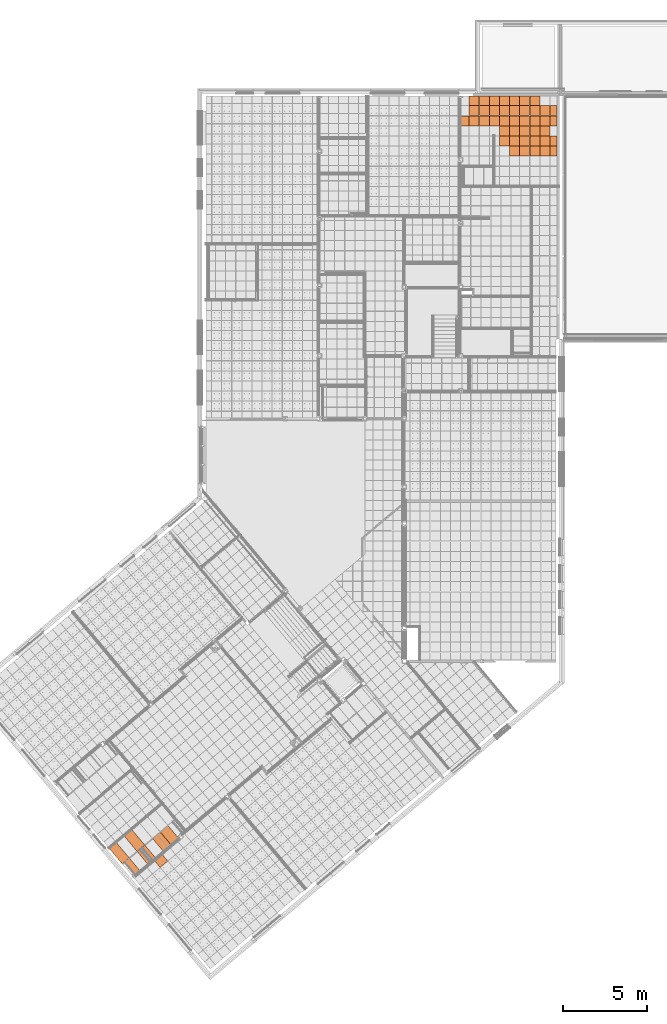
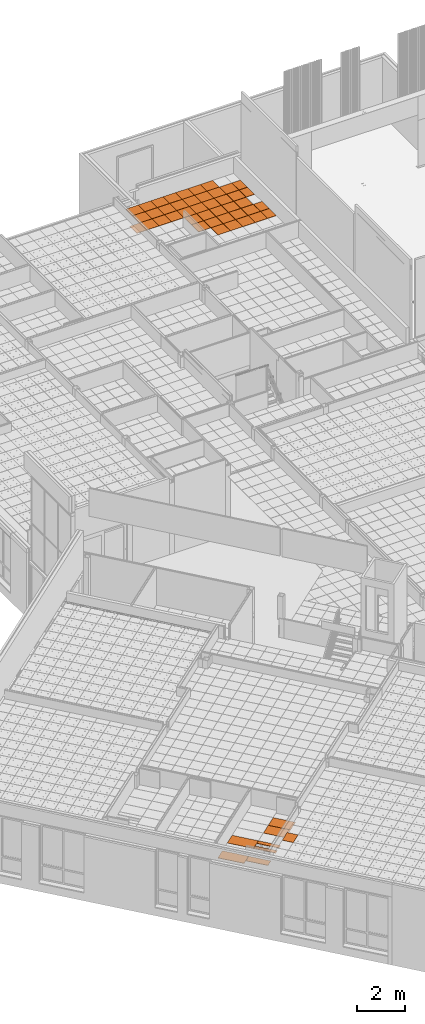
# One storey, part 311 of 338: 50 proxies, 3 elements without a shape of their own.
"""IFC2X3 building model written with IfcOpenShell, lengths in millimetres."""

from ifc_helpers import new_model, entity, si_unit, converted_unit, derived_unit, money_unit, direction, frame, origin_with_axes, place, context, subcontext, project, spatial, faceted_brep, source, transform, mapped, material, type_object, type_shapes, element, aggregate, save


model = new_model("IFC2X3")

# Units and contexts
model_context = context("Model", 3, precision=0.01, world=origin_with_axes(), true_north=direction((0.0, 1.0)))
plan_context = context("Plan", 3, precision=0.01, world=origin_with_axes(), true_north=direction((0.0, 1.0)))
body_context = subcontext(model_context, "Body", "Model", "MODEL_VIEW")
ifc_project = project(units=[si_unit("LENGTHUNIT", "METRE", prefix="MILLI"), si_unit("AREAUNIT", "SQUARE_METRE"), si_unit("VOLUMEUNIT", "CUBIC_METRE"), converted_unit("PLANEANGLEUNIT", "DEGREE", entity("IfcPlaneAngleMeasure", 0.0174532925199), si_unit("PLANEANGLEUNIT", "RADIAN"), dimensions=[0, 0, 0, 0, 0, 0, 0]), money_unit("EUR"), converted_unit("TIMEUNIT", "Year", entity("IfcTimeMeasure", 31556926.0), si_unit("TIMEUNIT", "SECOND"), dimensions=[0, 0, 1, 0, 0, 0, 0]), si_unit("MASSUNIT", "GRAM", prefix="KILO"), si_unit("THERMODYNAMICTEMPERATUREUNIT", "DEGREE_CELSIUS"), si_unit("LUMINOUSINTENSITYUNIT", "LUMEN"), si_unit("ENERGYUNIT", "JOULE", prefix="MEGA"), derived_unit("THERMALCONDUCTANCEUNIT", [(si_unit("POWERUNIT", "WATT"), 1), (si_unit("LENGTHUNIT", "METRE"), -1), (si_unit("THERMODYNAMICTEMPERATUREUNIT", "KELVIN"), -1)]), derived_unit("SPECIFICHEATCAPACITYUNIT", [(si_unit("ENERGYUNIT", "JOULE"), 1), (si_unit("MASSUNIT", "GRAM", prefix="KILO"), -1), (si_unit("THERMODYNAMICTEMPERATUREUNIT", "KELVIN"), -1)]), derived_unit("MASSDENSITYUNIT", [(si_unit("MASSUNIT", "GRAM", prefix="KILO"), 1), (si_unit("VOLUMEUNIT", "CUBIC_METRE"), -1)])], contexts=[model_context, plan_context])

# Site, building, storey
site_placement = place(None, origin_with_axes())
site = spatial("IfcSite", under=ifc_project, at=site_placement, Name="Fortuinstraat Woensdrecht", CompositionType="ELEMENT")
building_placement = place(site_placement, origin_with_axes())
building = spatial("IfcBuilding", under=site, at=building_placement, Name="IKC Fortuna", CompositionType="ELEMENT")
storey_placement = place(building_placement, origin_with_axes())
storey = spatial("IfcBuildingStorey", under=building, at=storey_placement, Name="00 begane grond", CompositionType="ELEMENT", Elevation=0.0)

# Covering, proxies
covering_type = type_object("IfcCoveringType", Name="Curtain Wall Type", PredefinedType="CEILING")
covering_1_placement = place(storey_placement, frame((34473.6590305, 30882.3889696, 2810.0), z_axis=(0.0, 0.0, 1.0), x_axis=(1.0, 0.0, 0.0)))
covering_1 = element("IfcCovering", 1, at=covering_1_placement, inside=storey, type_object=covering_type, Name="45_Plafondafwerking_P02 v", PredefinedType="CEILING")
ifc_material = material(Name="Gipsplaat")
building_element_proxy_type_1 = type_object("IfcBuildingElementProxyType", Name="Distinct Panel 600 x 600 x 20", PredefinedType="NOTDEFINED")
shared_shape_1 = source(origin_with_axes(), body_context, "Body", "Brep", [
    faceted_brep([(-2.49999999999, 2.5, -10.0), (-2.49999999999, 2.5, 10.0), (-597.5, 2.49999999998, 10.0), (-597.5, 2.49999999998, -10.0), (-2.50000000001, 597.5, -10.0), (-2.50000000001, 597.5, 10.0), (-597.5, 597.5, 10.0), (-597.5, 597.5, -10.0)], [[[0, 1, 2, 3]], [[4, 5, 1, 0]], [[1, 5, 6, 2]], [[3, 2, 6, 7]], [[0, 3, 7, 4]], [[7, 6, 5, 4]]]),
])
proxy_1_placement = place(covering_1_placement, frame((-509.768002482, 3600.0, 1.63868918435e-10), z_axis=(0.0, 0.0, 1.0), x_axis=(1.0, 0.0, 0.0)))
proxy_1 = element("IfcBuildingElementProxy", 2, at=proxy_1_placement, type_object=building_element_proxy_type_1, material=ifc_material, Name="__Panel-D", context=body_context, shape_type="MappedRepresentation", body=[
    mapped(shared_shape_1, transform((-300.0, 300.0, 0.0), x_axis=(-1.0, 0.0, 0.0), y_axis=(0.0, -1.0, 0.0), z_axis=(0.0, 0.0, 1.0))),
])
proxy_2_placement = place(covering_1_placement, frame((-3509.76800248, 3000.0, 0.0), z_axis=(0.0, 0.0, 1.0), x_axis=(1.0, 0.0, 0.0)))
proxy_2 = element("IfcBuildingElementProxy", 3, at=proxy_2_placement, type_object=building_element_proxy_type_1, material=ifc_material, Name="__Panel-D", context=body_context, shape_type="MappedRepresentation", body=[
    mapped(shared_shape_1, transform((-300.0, 300.0, 0.0), x_axis=(-1.0, 0.0, 0.0), y_axis=(0.0, -1.0, 0.0), z_axis=(0.0, 0.0, 1.0))),
])
proxy_3_placement = place(covering_1_placement, frame((-1109.76800248, 3000.0, 1.43884903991e-10), z_axis=(0.0, 0.0, 1.0), x_axis=(1.0, 0.0, 0.0)))
proxy_3 = element("IfcBuildingElementProxy", 4, at=proxy_3_placement, type_object=building_element_proxy_type_1, material=ifc_material, Name="__Panel-D", context=body_context, shape_type="MappedRepresentation", body=[
    mapped(shared_shape_1, transform((-300.0, 300.0, 0.0), x_axis=(-1.0, 0.0, 0.0), y_axis=(0.0, -1.0, 0.0), z_axis=(0.0, 0.0, 1.0))),
])
proxy_4_placement = place(covering_1_placement, frame((-509.768002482, 3000.0, 1.63868918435e-10), z_axis=(0.0, 0.0, 1.0), x_axis=(1.0, 0.0, 0.0)))
proxy_4 = element("IfcBuildingElementProxy", 5, at=proxy_4_placement, type_object=building_element_proxy_type_1, material=ifc_material, Name="__Panel-D", context=body_context, shape_type="MappedRepresentation", body=[
    mapped(shared_shape_1, transform((-300.0, 300.0, 0.0), x_axis=(-1.0, 0.0, 0.0), y_axis=(0.0, -1.0, 0.0), z_axis=(0.0, 0.0, 1.0))),
])
proxy_5_placement = place(covering_1_placement, frame((-1709.76800248, 3600.0, 1.24344978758e-10), z_axis=(0.0, 0.0, 1.0), x_axis=(1.0, 0.0, 0.0)))
proxy_5 = element("IfcBuildingElementProxy", 6, at=proxy_5_placement, type_object=building_element_proxy_type_1, material=ifc_material, Name="__Panel-D", context=body_context, shape_type="MappedRepresentation", body=[
    mapped(shared_shape_1, transform((-300.0, 300.0, 0.0), x_axis=(-1.0, 0.0, 0.0), y_axis=(0.0, -1.0, 0.0), z_axis=(0.0, 0.0, 1.0))),
])
proxy_6_placement = place(covering_1_placement, frame((-4709.76800248, 3600.0, 0.0), z_axis=(0.0, 0.0, 1.0), x_axis=(1.0, 0.0, 0.0)))
proxy_6 = element("IfcBuildingElementProxy", 7, at=proxy_6_placement, type_object=building_element_proxy_type_1, material=ifc_material, Name="__Panel-D", context=body_context, shape_type="MappedRepresentation", body=[
    mapped(shared_shape_1, transform((-300.0, 300.0, 0.0), x_axis=(-1.0, 0.0, 0.0), y_axis=(0.0, -1.0, 0.0), z_axis=(0.0, 0.0, 1.0))),
])
proxy_7_placement = place(covering_1_placement, frame((-4109.76800248, 3600.0, 0.0), z_axis=(0.0, 0.0, 1.0), x_axis=(1.0, 0.0, 0.0)))
proxy_7 = element("IfcBuildingElementProxy", 8, at=proxy_7_placement, type_object=building_element_proxy_type_1, material=ifc_material, Name="__Panel-D", context=body_context, shape_type="MappedRepresentation", body=[
    mapped(shared_shape_1, transform((-300.0, 300.0, 0.0), x_axis=(-1.0, 0.0, 0.0), y_axis=(0.0, -1.0, 0.0), z_axis=(0.0, 0.0, 1.0))),
])
proxy_8_placement = place(covering_1_placement, frame((-1109.76800248, 3600.0, 1.43884903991e-10), z_axis=(0.0, 0.0, 1.0), x_axis=(1.0, 0.0, 0.0)))
proxy_8 = element("IfcBuildingElementProxy", 9, at=proxy_8_placement, type_object=building_element_proxy_type_1, material=ifc_material, Name="__Panel-D", context=body_context, shape_type="MappedRepresentation", body=[
    mapped(shared_shape_1, transform((-300.0, 300.0, 0.0), x_axis=(-1.0, 0.0, 0.0), y_axis=(0.0, -1.0, 0.0), z_axis=(0.0, 0.0, 1.0))),
])
proxy_9_placement = place(covering_1_placement, frame((-3509.76800248, 3600.0, 0.0), z_axis=(0.0, 0.0, 1.0), x_axis=(1.0, 0.0, 0.0)))
proxy_9 = element("IfcBuildingElementProxy", 10, at=proxy_9_placement, type_object=building_element_proxy_type_1, material=ifc_material, Name="__Panel-D", context=body_context, shape_type="MappedRepresentation", body=[
    mapped(shared_shape_1, transform((-300.0, 300.0, 0.0), x_axis=(-1.0, 0.0, 0.0), y_axis=(0.0, -1.0, 0.0), z_axis=(0.0, 0.0, 1.0))),
])
proxy_10_placement = place(covering_1_placement, frame((-2909.76800248, 3600.0, 0.0), z_axis=(0.0, 0.0, 1.0), x_axis=(1.0, 0.0, 0.0)))
proxy_10 = element("IfcBuildingElementProxy", 11, at=proxy_10_placement, type_object=building_element_proxy_type_1, material=ifc_material, Name="__Panel-D", context=body_context, shape_type="MappedRepresentation", body=[
    mapped(shared_shape_1, transform((-300.0, 300.0, 0.0), x_axis=(-1.0, 0.0, 0.0), y_axis=(0.0, -1.0, 0.0), z_axis=(0.0, 0.0, 1.0))),
])
proxy_11_placement = place(covering_1_placement, frame((-2309.76800248, 3600.0, 1.04360964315e-10), z_axis=(0.0, 0.0, 1.0), x_axis=(1.0, 0.0, 0.0)))
proxy_11 = element("IfcBuildingElementProxy", 12, at=proxy_11_placement, type_object=building_element_proxy_type_1, material=ifc_material, Name="__Panel-D", context=body_context, shape_type="MappedRepresentation", body=[
    mapped(shared_shape_1, transform((-300.0, 300.0, 0.0), x_axis=(-1.0, 0.0, 0.0), y_axis=(0.0, -1.0, 0.0), z_axis=(0.0, 0.0, 1.0))),
])
proxy_12_placement = place(covering_1_placement, frame((-1109.76800248, 1200.0, 1.43884903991e-10), z_axis=(0.0, 0.0, 1.0), x_axis=(1.0, 0.0, 0.0)))
proxy_12 = element("IfcBuildingElementProxy", 13, at=proxy_12_placement, type_object=building_element_proxy_type_1, material=ifc_material, Name="__Panel-D", context=body_context, shape_type="MappedRepresentation", body=[
    mapped(shared_shape_1, transform((-300.0, 300.0, 0.0), x_axis=(-1.0, 0.0, 0.0), y_axis=(0.0, -1.0, 0.0), z_axis=(0.0, 0.0, 1.0))),
])
proxy_13_placement = place(covering_1_placement, frame((-509.768002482, 2400.0, 1.63868918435e-10), z_axis=(0.0, 0.0, 1.0), x_axis=(1.0, 0.0, 0.0)))
proxy_13 = element("IfcBuildingElementProxy", 14, at=proxy_13_placement, type_object=building_element_proxy_type_1, material=ifc_material, Name="__Panel-D", context=body_context, shape_type="MappedRepresentation", body=[
    mapped(shared_shape_1, transform((-300.0, 300.0, 0.0), x_axis=(-1.0, 0.0, 0.0), y_axis=(0.0, -1.0, 0.0), z_axis=(0.0, 0.0, 1.0))),
])
proxy_14_placement = place(covering_1_placement, frame((-509.768002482, 1200.0, 1.63868918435e-10), z_axis=(0.0, 0.0, 1.0), x_axis=(1.0, 0.0, 0.0)))
proxy_14 = element("IfcBuildingElementProxy", 15, at=proxy_14_placement, type_object=building_element_proxy_type_1, material=ifc_material, Name="__Panel-D", context=body_context, shape_type="MappedRepresentation", body=[
    mapped(shared_shape_1, transform((-300.0, 300.0, 0.0), x_axis=(-1.0, 0.0, 0.0), y_axis=(0.0, -1.0, 0.0), z_axis=(0.0, 0.0, 1.0))),
])
proxy_15_placement = place(covering_1_placement, frame((-1109.76800248, 1800.0, 1.43884903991e-10), z_axis=(0.0, 0.0, 1.0), x_axis=(1.0, 0.0, 0.0)))
proxy_15 = element("IfcBuildingElementProxy", 16, at=proxy_15_placement, type_object=building_element_proxy_type_1, material=ifc_material, Name="__Panel-D", context=body_context, shape_type="MappedRepresentation", body=[
    mapped(shared_shape_1, transform((-300.0, 300.0, 0.0), x_axis=(-1.0, 0.0, 0.0), y_axis=(0.0, -1.0, 0.0), z_axis=(0.0, 0.0, 1.0))),
])
proxy_16_placement = place(covering_1_placement, frame((-509.768002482, 1800.0, 1.63868918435e-10), z_axis=(0.0, 0.0, 1.0), x_axis=(1.0, 0.0, 0.0)))
proxy_16 = element("IfcBuildingElementProxy", 17, at=proxy_16_placement, type_object=building_element_proxy_type_1, material=ifc_material, Name="__Panel-D", context=body_context, shape_type="MappedRepresentation", body=[
    mapped(shared_shape_1, transform((-300.0, 300.0, 0.0), x_axis=(-1.0, 0.0, 0.0), y_axis=(0.0, -1.0, 0.0), z_axis=(0.0, 0.0, 1.0))),
])
proxy_17_placement = place(covering_1_placement, frame((-1109.76800248, 2400.0, 1.43884903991e-10), z_axis=(0.0, 0.0, 1.0), x_axis=(1.0, 0.0, 0.0)))
proxy_17 = element("IfcBuildingElementProxy", 18, at=proxy_17_placement, type_object=building_element_proxy_type_1, material=ifc_material, Name="__Panel-D", context=body_context, shape_type="MappedRepresentation", body=[
    mapped(shared_shape_1, transform((-300.0, 300.0, 0.0), x_axis=(-1.0, 0.0, 0.0), y_axis=(0.0, -1.0, 0.0), z_axis=(0.0, 0.0, 1.0))),
])
proxy_18_placement = place(covering_1_placement, frame((-1709.76800248, 1200.0, 1.24344978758e-10), z_axis=(0.0, 0.0, 1.0), x_axis=(1.0, 0.0, 0.0)))
proxy_18 = element("IfcBuildingElementProxy", 19, at=proxy_18_placement, type_object=building_element_proxy_type_1, material=ifc_material, Name="__Panel-D", context=body_context, shape_type="MappedRepresentation", body=[
    mapped(shared_shape_1, transform((-300.0, 300.0, 0.0), x_axis=(-1.0, 0.0, 0.0), y_axis=(0.0, -1.0, 0.0), z_axis=(0.0, 0.0, 1.0))),
])
proxy_19_placement = place(covering_1_placement, frame((-2309.76800248, 3000.0, 1.04360964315e-10), z_axis=(0.0, 0.0, 1.0), x_axis=(1.0, 0.0, 0.0)))
proxy_19 = element("IfcBuildingElementProxy", 20, at=proxy_19_placement, type_object=building_element_proxy_type_1, material=ifc_material, Name="__Panel-D", context=body_context, shape_type="MappedRepresentation", body=[
    mapped(shared_shape_1, transform((-300.0, 300.0, 0.0), x_axis=(-1.0, 0.0, 0.0), y_axis=(0.0, -1.0, 0.0), z_axis=(0.0, 0.0, 1.0))),
])
proxy_20_placement = place(covering_1_placement, frame((-2909.76800248, 2400.0, 0.0), z_axis=(0.0, 0.0, 1.0), x_axis=(1.0, 0.0, 0.0)))
proxy_20 = element("IfcBuildingElementProxy", 21, at=proxy_20_placement, type_object=building_element_proxy_type_1, material=ifc_material, Name="__Panel-D", context=body_context, shape_type="MappedRepresentation", body=[
    mapped(shared_shape_1, transform((-300.0, 300.0, 0.0), x_axis=(-1.0, 0.0, 0.0), y_axis=(0.0, -1.0, 0.0), z_axis=(0.0, 0.0, 1.0))),
])
proxy_21_placement = place(covering_1_placement, frame((-2909.76800248, 1800.0, 0.0), z_axis=(0.0, 0.0, 1.0), x_axis=(1.0, 0.0, 0.0)))
proxy_21 = element("IfcBuildingElementProxy", 22, at=proxy_21_placement, type_object=building_element_proxy_type_1, material=ifc_material, Name="__Panel-D", context=body_context, shape_type="MappedRepresentation", body=[
    mapped(shared_shape_1, transform((-300.0, 300.0, 0.0), x_axis=(-1.0, 0.0, 0.0), y_axis=(0.0, -1.0, 0.0), z_axis=(0.0, 0.0, 1.0))),
])
proxy_22_placement = place(covering_1_placement, frame((-2309.76800248, 2400.0, 1.04360964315e-10), z_axis=(0.0, 0.0, 1.0), x_axis=(1.0, 0.0, 0.0)))
proxy_22 = element("IfcBuildingElementProxy", 23, at=proxy_22_placement, type_object=building_element_proxy_type_1, material=ifc_material, Name="__Panel-D", context=body_context, shape_type="MappedRepresentation", body=[
    mapped(shared_shape_1, transform((-300.0, 300.0, 0.0), x_axis=(-1.0, 0.0, 0.0), y_axis=(0.0, -1.0, 0.0), z_axis=(0.0, 0.0, 1.0))),
])
proxy_23_placement = place(covering_1_placement, frame((-2309.76800248, 1800.0, 1.04360964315e-10), z_axis=(0.0, 0.0, 1.0), x_axis=(1.0, 0.0, 0.0)))
proxy_23 = element("IfcBuildingElementProxy", 24, at=proxy_23_placement, type_object=building_element_proxy_type_1, material=ifc_material, Name="__Panel-D", context=body_context, shape_type="MappedRepresentation", body=[
    mapped(shared_shape_1, transform((-300.0, 300.0, 0.0), x_axis=(-1.0, 0.0, 0.0), y_axis=(0.0, -1.0, 0.0), z_axis=(0.0, 0.0, 1.0))),
])
proxy_24_placement = place(covering_1_placement, frame((-2309.76800248, 1200.0, 1.04360964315e-10), z_axis=(0.0, 0.0, 1.0), x_axis=(1.0, 0.0, 0.0)))
proxy_24 = element("IfcBuildingElementProxy", 25, at=proxy_24_placement, type_object=building_element_proxy_type_1, material=ifc_material, Name="__Panel-D", context=body_context, shape_type="MappedRepresentation", body=[
    mapped(shared_shape_1, transform((-300.0, 300.0, 0.0), x_axis=(-1.0, 0.0, 0.0), y_axis=(0.0, -1.0, 0.0), z_axis=(0.0, 0.0, 1.0))),
])
proxy_25_placement = place(covering_1_placement, frame((-1709.76800248, 2400.0, 1.24344978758e-10), z_axis=(0.0, 0.0, 1.0), x_axis=(1.0, 0.0, 0.0)))
proxy_25 = element("IfcBuildingElementProxy", 26, at=proxy_25_placement, type_object=building_element_proxy_type_1, material=ifc_material, Name="__Panel-D", context=body_context, shape_type="MappedRepresentation", body=[
    mapped(shared_shape_1, transform((-300.0, 300.0, 0.0), x_axis=(-1.0, 0.0, 0.0), y_axis=(0.0, -1.0, 0.0), z_axis=(0.0, 0.0, 1.0))),
])
proxy_26_placement = place(covering_1_placement, frame((-1709.76800248, 1800.0, 1.24344978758e-10), z_axis=(0.0, 0.0, 1.0), x_axis=(1.0, 0.0, 0.0)))
proxy_26 = element("IfcBuildingElementProxy", 27, at=proxy_26_placement, type_object=building_element_proxy_type_1, material=ifc_material, Name="__Panel-D", context=body_context, shape_type="MappedRepresentation", body=[
    mapped(shared_shape_1, transform((-300.0, 300.0, 0.0), x_axis=(-1.0, 0.0, 0.0), y_axis=(0.0, -1.0, 0.0), z_axis=(0.0, 0.0, 1.0))),
])
shared_shape_2 = source(origin_with_axes(), body_context, "Body", "Brep", [
    faceted_brep([(-2.5000069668, 2.4999963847, -10.0), (-2.5000069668, 2.4999963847, 10.0), (-597.499995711, 2.50000275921, 10.0), (-597.499995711, 2.50000275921, -10.0), (-2.50000214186, 597.499967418, -10.0), (-2.50000214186, 597.499967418, 10.0), (-597.499990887, 597.499973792, 10.0), (-597.499990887, 597.499973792, -10.0)], [[[0, 1, 2, 3]], [[4, 5, 1, 0]], [[1, 5, 6, 2]], [[3, 2, 6, 7]], [[0, 3, 7, 4]], [[7, 6, 5, 4]]]),
])
type_shapes(building_element_proxy_type_1, [shared_shape_1, shared_shape_2])
proxy_27_placement = place(covering_1_placement, frame((-1709.76800248, 3000.0, 1.24344978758e-10), z_axis=(0.0, 0.0, 1.0), x_axis=(1.0, 0.0, 0.0)))
proxy_27 = element("IfcBuildingElementProxy", 28, at=proxy_27_placement, type_object=building_element_proxy_type_1, material=ifc_material, Name="__Panel-D", context=body_context, shape_type="MappedRepresentation", body=[
    mapped(shared_shape_2, transform((-300.0, 300.0, 0.0), x_axis=(-1.0, 0.0, 0.0), y_axis=(0.0, -1.0, 0.0), z_axis=(0.0, 0.0, 1.0))),
])
proxy_28_placement = place(covering_1_placement, frame((-4109.76800248, 3000.0, 0.0), z_axis=(0.0, 0.0, 1.0), x_axis=(1.0, 0.0, 0.0)))
proxy_28 = element("IfcBuildingElementProxy", 29, at=proxy_28_placement, type_object=building_element_proxy_type_1, material=ifc_material, Name="__Panel-D", context=body_context, shape_type="MappedRepresentation", body=[
    mapped(shared_shape_2, transform((-300.0, 300.0, 0.0), x_axis=(-1.0, 0.0, 0.0), y_axis=(0.0, -1.0, 0.0), z_axis=(0.0, 0.0, 1.0))),
])
proxy_29_placement = place(covering_1_placement, frame((-4709.76800248, 3000.0, 0.0), z_axis=(0.0, 0.0, 1.0), x_axis=(1.0, 0.0, 0.0)))
proxy_29 = element("IfcBuildingElementProxy", 30, at=proxy_29_placement, type_object=building_element_proxy_type_1, material=ifc_material, Name="__Panel-D", context=body_context, shape_type="MappedRepresentation", body=[
    mapped(shared_shape_2, transform((-300.0, 300.0, 0.0), x_axis=(-1.0, 0.0, 0.0), y_axis=(0.0, -1.0, 0.0), z_axis=(0.0, 0.0, 1.0))),
])
proxy_30_placement = place(covering_1_placement, frame((-2909.76800248, 3000.0, 0.0), z_axis=(0.0, 0.0, 1.0), x_axis=(1.0, 0.0, 0.0)))
proxy_30 = element("IfcBuildingElementProxy", 31, at=proxy_30_placement, type_object=building_element_proxy_type_1, material=ifc_material, Name="__Panel-D", context=body_context, shape_type="MappedRepresentation", body=[
    mapped(shared_shape_2, transform((-300.0, 300.0, 0.0), x_axis=(-1.0, 0.0, 0.0), y_axis=(0.0, -1.0, 0.0), z_axis=(0.0, 0.0, 1.0))),
])
building_element_proxy_type_2 = type_object("IfcBuildingElementProxyType", Name="Distinct Panel 420 x 600 x 20", PredefinedType="NOTDEFINED")
shared_shape_3 = source(origin_with_axes(), body_context, "Body", "Brep", [
    faceted_brep([(-2.50000074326, 2.5, -10.0), (-2.50000074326, 2.5, 10.0), (-417.036004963, 2.49999999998, 10.0), (-417.036004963, 2.49999999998, -10.0), (-2.50000074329, 597.5, -10.0), (-2.50000074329, 597.5, 10.0), (-417.036004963, 597.5, 10.0), (-417.036004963, 597.5, -10.0)], [[[0, 1, 2, 3]], [[4, 5, 1, 0]], [[1, 5, 6, 2]], [[3, 2, 6, 7]], [[0, 3, 7, 4]], [[7, 6, 5, 4]]]),
])
type_shapes(building_element_proxy_type_2, [shared_shape_3])
proxy_31_placement = place(covering_1_placement, frame((0.0, 1200.0, 1.80744308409e-10), z_axis=(0.0, 0.0, 1.0), x_axis=(1.0, 0.0, 0.0)))
proxy_31 = element("IfcBuildingElementProxy", 32, at=proxy_31_placement, type_object=building_element_proxy_type_2, material=ifc_material, Name="__Panel-D", context=body_context, shape_type="MappedRepresentation", body=[
    mapped(shared_shape_3, transform((-209.768002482, 300.0, 0.0), x_axis=(-1.0, 0.0, 0.0), y_axis=(0.0, -1.0, 0.0), z_axis=(0.0, 0.0, 1.0))),
])
proxy_32_placement = place(covering_1_placement, frame((0.0, 3000.0, 1.80744308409e-10), z_axis=(0.0, 0.0, 1.0), x_axis=(1.0, 0.0, 0.0)))
proxy_32 = element("IfcBuildingElementProxy", 33, at=proxy_32_placement, type_object=building_element_proxy_type_2, material=ifc_material, Name="__Panel-D", context=body_context, shape_type="MappedRepresentation", body=[
    mapped(shared_shape_3, transform((-209.768002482, 300.0, 0.0), x_axis=(-1.0, 0.0, 0.0), y_axis=(0.0, -1.0, 0.0), z_axis=(0.0, 0.0, 1.0))),
])
proxy_33_placement = place(covering_1_placement, frame((0.0, 3600.0, 1.80744308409e-10), z_axis=(0.0, 0.0, 1.0), x_axis=(1.0, 0.0, 0.0)))
proxy_33 = element("IfcBuildingElementProxy", 34, at=proxy_33_placement, type_object=building_element_proxy_type_2, material=ifc_material, Name="__Panel-D", context=body_context, shape_type="MappedRepresentation", body=[
    mapped(shared_shape_3, transform((-209.768002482, 300.0, 0.0), x_axis=(-1.0, 0.0, 0.0), y_axis=(0.0, -1.0, 0.0), z_axis=(0.0, 0.0, 1.0))),
])
proxy_34_placement = place(covering_1_placement, frame((0.0, 1800.0, 1.80744308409e-10), z_axis=(0.0, 0.0, 1.0), x_axis=(1.0, 0.0, 0.0)))
proxy_34 = element("IfcBuildingElementProxy", 35, at=proxy_34_placement, type_object=building_element_proxy_type_2, material=ifc_material, Name="__Panel-D", context=body_context, shape_type="MappedRepresentation", body=[
    mapped(shared_shape_3, transform((-209.768002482, 300.0, 0.0), x_axis=(-1.0, 0.0, 0.0), y_axis=(0.0, -1.0, 0.0), z_axis=(0.0, 0.0, 1.0))),
])
building_element_proxy_type_3 = type_object("IfcBuildingElementProxyType", Name="Distinct Panel 487 x 600 x 20", PredefinedType="NOTDEFINED")
shared_shape_4 = source(origin_with_axes(), body_context, "Body", "Brep", [
    faceted_brep([(-115.543925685, 2.5, -10.0), (-115.543925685, 2.5, 10.0), (-597.5, 2.49999999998, 10.0), (-597.5, 2.49999999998, -10.0), (-115.543925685, 597.5, -10.0), (-115.543925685, 597.5, 10.0), (-597.5, 597.5, 10.0), (-597.5, 597.5, -10.0)], [[[0, 1, 2, 3]], [[4, 5, 1, 0]], [[1, 5, 6, 2]], [[3, 2, 6, 7]], [[0, 3, 7, 4]], [[7, 6, 5, 4]]]),
])
type_shapes(building_element_proxy_type_3, [shared_shape_4])
proxy_35_placement = place(covering_1_placement, frame((-5253.24603815, 3000.0, 0.0), z_axis=(0.0, 0.0, 1.0), x_axis=(1.0, 0.0, 0.0)))
proxy_35 = element("IfcBuildingElementProxy", 36, at=proxy_35_placement, type_object=building_element_proxy_type_3, material=ifc_material, Name="__Panel-D", context=body_context, shape_type="MappedRepresentation", body=[
    mapped(shared_shape_4, transform((-356.521964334, 300.0, 0.0), x_axis=(-1.0, 0.0, 0.0), y_axis=(0.0, -1.0, 0.0), z_axis=(0.0, 0.0, 1.0))),
])
building_element_proxy_type_4 = type_object("IfcBuildingElementProxyType", Name="Distinct Panel 600 x 564 x 20", PredefinedType="NOTDEFINED")
shared_shape_5 = source(origin_with_axes(), body_context, "Body", "Brep", [
    faceted_brep([(-2.49999999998, 38.5923574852, -10.0), (-2.49999999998, 38.5923574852, 10.0), (-597.5, 38.5923574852, 10.0), (-597.5, 38.5923574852, -10.0), (-2.5, 597.5, -10.0), (-2.5, 597.5, 10.0), (-597.5, 597.5, 10.0), (-597.5, 597.5, -10.0)], [[[0, 1, 2, 3]], [[4, 5, 1, 0]], [[1, 5, 6, 2]], [[3, 2, 6, 7]], [[0, 3, 7, 4]], [[7, 6, 5, 4]]]),
])
type_shapes(building_element_proxy_type_4, [shared_shape_5])
proxy_36_placement = place(covering_1_placement, frame((-1709.76800248, 4181.95382087, 1.24344978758e-10), z_axis=(0.0, 0.0, 1.0), x_axis=(1.0, 0.0, 0.0)))
proxy_36 = element("IfcBuildingElementProxy", 37, at=proxy_36_placement, type_object=building_element_proxy_type_4, material=ifc_material, Name="__Panel-D", context=body_context, shape_type="MappedRepresentation", body=[
    mapped(shared_shape_5, transform((-300.0, 318.04617913, 0.0), x_axis=(-1.0, 0.0, 0.0), y_axis=(0.0, -1.0, 0.0), z_axis=(0.0, 0.0, 1.0))),
])
proxy_37_placement = place(covering_1_placement, frame((-4109.76800248, 4181.95382087, 0.0), z_axis=(0.0, 0.0, 1.0), x_axis=(1.0, 0.0, 0.0)))
proxy_37 = element("IfcBuildingElementProxy", 38, at=proxy_37_placement, type_object=building_element_proxy_type_4, material=ifc_material, Name="__Panel-D", context=body_context, shape_type="MappedRepresentation", body=[
    mapped(shared_shape_5, transform((-300.0, 318.04617913, 0.0), x_axis=(-1.0, 0.0, 0.0), y_axis=(0.0, -1.0, 0.0), z_axis=(0.0, 0.0, 1.0))),
])
proxy_38_placement = place(covering_1_placement, frame((-2909.76800248, 4181.95382087, 0.0), z_axis=(0.0, 0.0, 1.0), x_axis=(1.0, 0.0, 0.0)))
proxy_38 = element("IfcBuildingElementProxy", 39, at=proxy_38_placement, type_object=building_element_proxy_type_4, material=ifc_material, Name="__Panel-D", context=body_context, shape_type="MappedRepresentation", body=[
    mapped(shared_shape_5, transform((-300.0, 318.04617913, 0.0), x_axis=(-1.0, 0.0, 0.0), y_axis=(0.0, -1.0, 0.0), z_axis=(0.0, 0.0, 1.0))),
])
proxy_39_placement = place(covering_1_placement, frame((-3509.76800248, 4181.95382087, 0.0), z_axis=(0.0, 0.0, 1.0), x_axis=(1.0, 0.0, 0.0)))
proxy_39 = element("IfcBuildingElementProxy", 40, at=proxy_39_placement, type_object=building_element_proxy_type_4, material=ifc_material, Name="__Panel-D", context=body_context, shape_type="MappedRepresentation", body=[
    mapped(shared_shape_5, transform((-300.0, 318.04617913, 0.0), x_axis=(-1.0, 0.0, 0.0), y_axis=(0.0, -1.0, 0.0), z_axis=(0.0, 0.0, 1.0))),
])
proxy_40_placement = place(covering_1_placement, frame((-1109.76800248, 4181.95382087, 1.43884903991e-10), z_axis=(0.0, 0.0, 1.0), x_axis=(1.0, 0.0, 0.0)))
proxy_40 = element("IfcBuildingElementProxy", 41, at=proxy_40_placement, type_object=building_element_proxy_type_4, material=ifc_material, Name="__Panel-D", context=body_context, shape_type="MappedRepresentation", body=[
    mapped(shared_shape_5, transform((-300.0, 318.04617913, 0.0), x_axis=(-1.0, 0.0, 0.0), y_axis=(0.0, -1.0, 0.0), z_axis=(0.0, 0.0, 1.0))),
])
proxy_41_placement = place(covering_1_placement, frame((-2309.76800248, 4181.95382087, 1.04360964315e-10), z_axis=(0.0, 0.0, 1.0), x_axis=(1.0, 0.0, 0.0)))
proxy_41 = element("IfcBuildingElementProxy", 42, at=proxy_41_placement, type_object=building_element_proxy_type_4, material=ifc_material, Name="__Panel-D", context=body_context, shape_type="MappedRepresentation", body=[
    mapped(shared_shape_5, transform((-300.0, 318.04617913, 0.0), x_axis=(-1.0, 0.0, 0.0), y_axis=(0.0, -1.0, 0.0), z_axis=(0.0, 0.0, 1.0))),
])
proxy_42_placement = place(covering_1_placement, frame((-4709.76800248, 4181.95382087, 0.0), z_axis=(0.0, 0.0, 1.0), x_axis=(1.0, 0.0, 0.0)))
proxy_42 = element("IfcBuildingElementProxy", 43, at=proxy_42_placement, type_object=building_element_proxy_type_4, material=ifc_material, Name="__Panel-D", context=body_context, shape_type="MappedRepresentation", body=[
    mapped(shared_shape_5, transform((-300.0, 318.04617913, 0.0), x_axis=(-1.0, 0.0, 0.0), y_axis=(0.0, -1.0, 0.0), z_axis=(0.0, 0.0, 1.0))),
])
aggregate(covering_1, [proxy_1, proxy_2, proxy_35, proxy_36, proxy_3, proxy_4, proxy_27, proxy_28, proxy_31, proxy_29, proxy_5, proxy_32, proxy_6, proxy_30, proxy_7, proxy_8, proxy_9, proxy_33, proxy_10, proxy_37, proxy_38, proxy_11, proxy_39, proxy_12, proxy_40, proxy_13, proxy_14, proxy_41, proxy_34, proxy_15, proxy_16, proxy_17, proxy_18, proxy_19, proxy_42, proxy_20, proxy_21, proxy_22, proxy_23, proxy_24, proxy_25, proxy_26])

covering_2_placement = place(storey_placement, frame((12053.0472686, -8408.71417201, 4260.0), z_axis=(0.0, 0.0, 1.0), x_axis=(1.0, 0.0, 0.0)))
covering_2 = element("IfcCovering", 44, at=covering_2_placement, inside=storey, type_object=covering_type, Name="45_Plafondafwerking_P02a", PredefinedType="CEILING")
building_element_proxy_type_5 = type_object("IfcBuildingElementProxyType", Name="Distinct Panel 600 x 993 x 20", PredefinedType="NOTDEFINED")
proxy_43_placement = place(covering_2_placement, frame((-405.391717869, -172.09188016, 1.06581410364e-10), z_axis=(0.0, 0.0, 1.0), x_axis=(1.0, 0.0, 0.0)))
proxy_43 = element("IfcBuildingElementProxy", 45, at=proxy_43_placement, type_object=building_element_proxy_type_5, material=ifc_material, Name="__Panel-D", context=body_context, shape_type="Brep", body=[
    faceted_brep([(-89.4798940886, 569.465696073, -10.0), (-89.4798940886, 569.465696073, 9.99999999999), (545.276287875, -187.007047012, 9.99999999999), (545.276287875, -187.007047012, -10.0), (-545.276274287, 187.007021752, -10.0), (-545.276274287, 187.007021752, 9.99999999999), (89.4798735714, -569.465687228, 9.99999999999), (89.4798735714, -569.465687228, -10.0)], [[[0, 1, 2, 3]], [[4, 5, 1, 0]], [[1, 5, 6, 2]], [[3, 2, 6, 7]], [[0, 3, 7, 4]], [[7, 6, 5, 4]]]),
])
proxy_44_placement = place(covering_2_placement, frame((-865.018354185, -557.764481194, 0.0), z_axis=(0.0, 0.0, 1.0), x_axis=(1.0, 0.0, 0.0)))
proxy_44 = element("IfcBuildingElementProxy", 46, at=proxy_44_placement, type_object=building_element_proxy_type_5, material=ifc_material, Name="__Panel-D", context=body_context, shape_type="Brep", body=[
    faceted_brep([(-89.4798702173, 569.465678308, -10.0), (-89.4798702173, 569.465678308, 9.99999999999), (545.276278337, -187.007021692, 9.99999999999), (545.276278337, -187.007021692, -10.0), (-545.276248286, 187.006983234, -10.0), (-545.276248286, 187.006983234, 9.99999999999), (89.4798320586, -569.465631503, 9.99999999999), (89.4798320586, -569.465631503, -10.0)], [[[0, 1, 2, 3]], [[4, 5, 1, 0]], [[1, 5, 6, 2]], [[3, 2, 6, 7]], [[0, 3, 7, 4]], [[7, 6, 5, 4]]]),
])
building_element_proxy_type_6 = type_object("IfcBuildingElementProxyType", Name="Distinct Panel 357 x 1175 x 20", PredefinedType="NOTDEFINED")
proxy_45_placement = place(covering_2_placement, frame((-3320.16931367, -1356.53054071, 0.0), z_axis=(0.0, 0.0, 1.0), x_axis=(1.0, 0.0, 0.0)))
proxy_45 = element("IfcBuildingElementProxy", 47, at=proxy_45_placement, type_object=building_element_proxy_type_6, material=ifc_material, Name="__Panel-D", context=body_context, shape_type="Brep", body=[
    faceted_brep([(-228.107951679, 725.639769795, -10.0), (-228.107951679, 725.639769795, 9.99999999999), (523.950735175, -170.628566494, 9.99999999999), (523.950735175, -170.628566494, -10.0), (-650.953542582, 370.830094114, -10.0), (-650.953542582, 370.830094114, 9.99999999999), (101.105013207, -525.43837324, 9.99999999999), (252.398794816, -398.4877791, 9.99999999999), (252.398794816, -398.4877791, -10.0), (101.105013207, -525.43837324, -10.0)], [[[0, 1, 2, 3]], [[4, 5, 1, 0]], [[1, 5, 6, 7, 2]], [[3, 2, 7, 8]], [[0, 3, 8, 9, 4]], [[9, 6, 5, 4]], [[8, 7, 6, 9]]]),
])
building_element_proxy_type_7 = type_object("IfcBuildingElementProxyType", Name="Distinct Panel 203 x 1175 x 20", PredefinedType="NOTDEFINED")
proxy_46_placement = place(covering_2_placement, frame((-2355.73643325, -649.531528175, 0.0), z_axis=(0.0, 0.0, 1.0), x_axis=(1.0, 0.0, 0.0)))
proxy_46 = element("IfcBuildingElementProxy", 48, at=proxy_46_placement, type_object=building_element_proxy_type_7, material=ifc_material, Name="__Panel-D", context=body_context, shape_type="Brep", body=[
    faceted_brep([(-273.2876231, 789.986046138, -10.0), (-273.2876231, 789.986046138, 9.99999999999), (478.771047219, -106.282313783, 9.99999999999), (478.771047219, -106.282313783, -10.0), (-729.084014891, 407.527326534, -10.0), (-729.084014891, 407.527326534, 9.99999999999), (22.9746745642, -488.741014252, 9.99999999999), (172.101551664, -363.608671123, 9.99999999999), (325.310406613, -235.051139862, 9.99999999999), (325.310406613, -235.051139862, -10.0), (172.101551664, -363.608671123, -10.0), (22.9746745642, -488.741014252, -10.0)], [[[0, 1, 2, 3]], [[4, 5, 1, 0]], [[1, 5, 6, 7, 8, 2]], [[3, 2, 8, 9]], [[0, 3, 9, 10, 11, 4]], [[11, 6, 5, 4]], [[10, 7, 6, 11]], [[9, 8, 7, 10]]]),
])
building_element_proxy_type_8 = type_object("IfcBuildingElementProxyType", Name="Distinct Panel 203 x 993 x 20", PredefinedType="NOTDEFINED")
proxy_47_placement = place(covering_2_placement, frame((-1632.14621573, -1201.4612872, 0.0), z_axis=(0.0, 0.0, 1.0), x_axis=(1.0, 0.0, 0.0)))
proxy_47 = element("IfcBuildingElementProxy", 49, at=proxy_47_placement, type_object=building_element_proxy_type_8, material=ifc_material, Name="__Panel-D", context=body_context, shape_type="Brep", body=[
    faceted_brep([(-241.605228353, 441.817213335, -10.0), (-241.605228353, 441.817213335, 9.99999999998), (393.150815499, -314.655350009, 9.99999999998), (393.150815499, -314.655350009, -10.0), (-393.150760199, 314.655360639, -10.0), (-393.150760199, 314.655360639, 9.99999999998), (241.605164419, -441.817215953, 9.99999999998), (241.605164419, -441.817215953, -10.0)], [[[0, 1, 2, 3]], [[4, 5, 1, 0]], [[1, 5, 6, 2]], [[3, 2, 6, 7]], [[0, 3, 7, 4]], [[7, 6, 5, 4]]]),
])
building_element_proxy_type_9 = type_object("IfcBuildingElementProxyType", Name="Distinct Panel 357 x 993 x 20", PredefinedType="NOTDEFINED")
proxy_48_placement = place(covering_2_placement, frame((-2610.44507374, -2022.35163257, 0.0), z_axis=(0.0, 0.0, 1.0), x_axis=(1.0, 0.0, 0.0)))
proxy_48 = element("IfcBuildingElementProxy", 50, at=proxy_48_placement, type_object=building_element_proxy_type_9, material=ifc_material, Name="__Panel-D", context=body_context, shape_type="Brep", body=[
    faceted_brep([(-182.55959379, 491.362286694, -10.0), (-182.55959379, 491.362286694, 9.99999999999), (452.19635263, -265.110128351, 9.99999999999), (452.19635263, -265.110128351, -10.0), (-452.19639374, 265.110049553, -10.0), (-452.19639374, 265.110049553, 9.99999999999), (182.559641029, -491.362203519, 9.99999999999), (182.559641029, -491.362203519, -10.0)], [[[0, 1, 2, 3]], [[4, 5, 1, 0]], [[1, 5, 6, 2]], [[3, 2, 6, 7]], [[0, 3, 7, 4]], [[7, 6, 5, 4]]]),
])
building_element_proxy_type_10 = type_object("IfcBuildingElementProxyType", Name="Distinct Panel 197 x 993 x 20", PredefinedType="NOTDEFINED")
proxy_49_placement = place(covering_2_placement, frame((-1938.5639712, -1458.57633287, 0.0), z_axis=(0.0, 0.0, 1.0), x_axis=(1.0, 0.0, 0.0)))
proxy_49 = element("IfcBuildingElementProxy", 51, at=proxy_49_placement, type_object=building_element_proxy_type_10, material=ifc_material, Name="__Panel-D", context=body_context, shape_type="Brep", body=[
    faceted_brep([(-243.772070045, 439.998950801, -10.0), (-243.772070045, 439.998950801, 10.0), (390.983792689, -316.473593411, 10.0), (390.983792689, -316.473593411, -10.0), (-390.983852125, 316.473566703, -10.0), (-390.983852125, 316.473566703, 10.0), (243.772116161, -439.998911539, 10.0), (243.772116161, -439.998911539, -10.0)], [[[0, 1, 2, 3]], [[4, 5, 1, 0]], [[1, 5, 6, 2]], [[3, 2, 6, 7]], [[0, 3, 7, 4]], [[7, 6, 5, 4]]]),
])
aggregate(covering_2, [proxy_45, proxy_46, proxy_43, proxy_44, proxy_47, proxy_48, proxy_49])

# Covering, proxy
covering_3_placement = place(storey_placement, frame((15150.6418133, -6622.13986243, 4660.0), z_axis=(0.0, 0.0, 1.0), x_axis=(1.0, 0.0, 0.0)))
covering_3 = element("IfcCovering", 52, at=covering_3_placement, inside=storey, type_object=covering_type, Name="45_Plafondafwerking_P01", PredefinedType="CEILING")
building_element_proxy_type_11 = type_object("IfcBuildingElementProxyType", Name="600 x 495 x 20", PredefinedType="NOTDEFINED")
proxy_50_placement = place(covering_3_placement, frame((-3988.28793932, -3499.95742144, 1.7763568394e-10), z_axis=(0.0, 0.0, 1.0), x_axis=(1.0, 0.0, 0.0)))
proxy_50 = element("IfcBuildingElementProxy", 53, at=proxy_50_placement, type_object=building_element_proxy_type_11, material=ifc_material, Name="__600x649 Rockfon Krios", context=body_context, shape_type="Brep", body=[
    faceted_brep([(70.4154112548, 378.909932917, -10.0), (-385.380939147, -3.54882093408, -10.0), (-385.380939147, -3.54882093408, 9.99999999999), (70.4154112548, 378.909932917, 9.99999999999), (385.380939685, 3.54881430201, -10.0), (-70.4153991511, -378.90993955, -10.0), (-70.4153991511, -378.90993955, 9.99999999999), (385.380939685, 3.54881430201, 9.99999999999)], [[[0, 1, 2, 3]], [[0, 4, 5, 1]], [[1, 5, 6, 2]], [[3, 2, 6, 7]], [[4, 0, 3, 7]], [[5, 4, 7, 6]]]),
])
aggregate(covering_3, [proxy_50])

save(model, "model.ifc")
